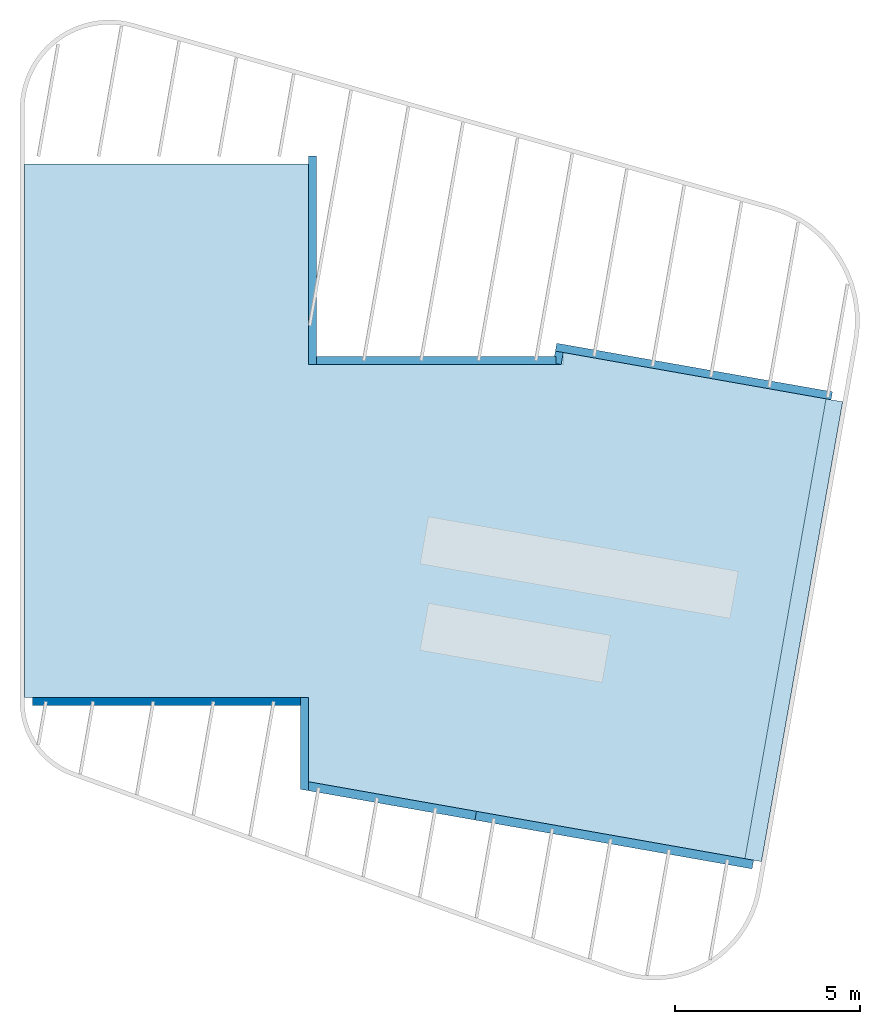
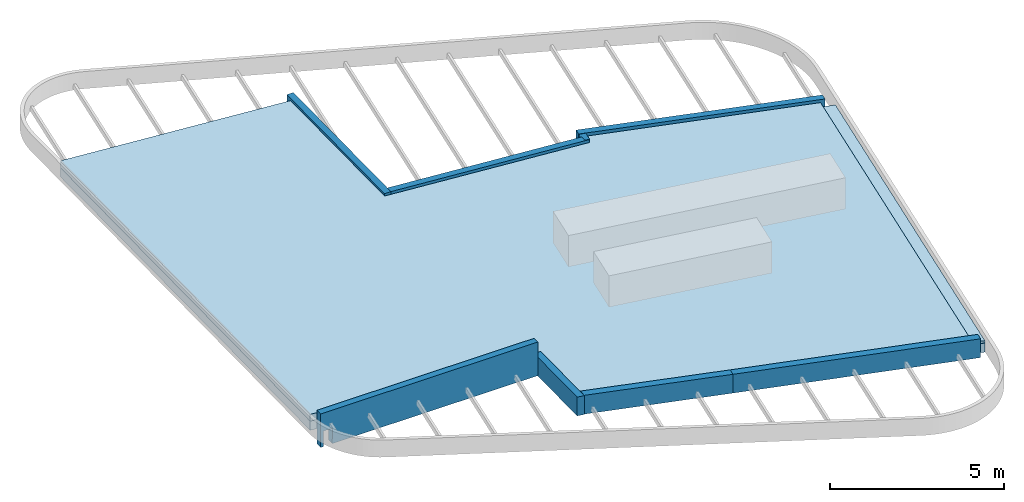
# One storey, part 2 of 3: 8 walls, 3 slabs, 1 opening, 2 elements without a shape of their own.
"""IFC2X3 building model written with IfcOpenShell, lengths in millimetres."""

from ifc_helpers import new_model, entity, si_unit, converted_unit, derived_unit, direction, frame, frame_2d, origin, place, context, subcontext, project, spatial, polyline, rectangle, outline, extrude, clip, halfspace, bounded_halfspace, faceted_brep, material, material_list, layer, layer_set, layer_usage, type_object, element, aggregate, save


model = new_model("IFC2X3")

# Units and contexts
model_context = context("Model", 3, precision=0.01, world=origin(), true_north=direction((6.12303176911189e-17, 1.0)))
body_context = subcontext(model_context, "Body", "Model", "MODEL_VIEW")
ifc_project = project(units=[si_unit("LENGTHUNIT", "METRE", prefix="MILLI"), si_unit("AREAUNIT", "SQUARE_METRE"), si_unit("VOLUMEUNIT", "CUBIC_METRE"), converted_unit("PLANEANGLEUNIT", "DEGREE", entity("IfcRatioMeasure", 0.0174532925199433), si_unit("PLANEANGLEUNIT", "RADIAN"), dimensions=[0, 0, 0, 0, 0, 0, 0]), si_unit("MASSUNIT", "GRAM", prefix="KILO"), derived_unit("MASSDENSITYUNIT", [(si_unit("MASSUNIT", "GRAM", prefix="KILO"), 1), (si_unit("LENGTHUNIT", "METRE"), -3)]), si_unit("TIMEUNIT", "SECOND"), si_unit("FREQUENCYUNIT", "HERTZ"), si_unit("THERMODYNAMICTEMPERATUREUNIT", "DEGREE_CELSIUS"), derived_unit("THERMALTRANSMITTANCEUNIT", [(si_unit("MASSUNIT", "GRAM", prefix="KILO"), 1), (si_unit("THERMODYNAMICTEMPERATUREUNIT", "KELVIN"), -1), (si_unit("TIMEUNIT", "SECOND"), -3)]), derived_unit("VOLUMETRICFLOWRATEUNIT", [(si_unit("LENGTHUNIT", "METRE"), 3), (si_unit("TIMEUNIT", "SECOND"), -1)]), si_unit("ELECTRICCURRENTUNIT", "AMPERE"), si_unit("ELECTRICVOLTAGEUNIT", "VOLT"), si_unit("POWERUNIT", "WATT"), si_unit("FORCEUNIT", "NEWTON", prefix="KILO"), si_unit("ILLUMINANCEUNIT", "LUX"), si_unit("LUMINOUSFLUXUNIT", "LUMEN"), si_unit("LUMINOUSINTENSITYUNIT", "CANDELA"), derived_unit("USERDEFINED", [(si_unit("MASSUNIT", "GRAM", prefix="KILO"), -1), (si_unit("LENGTHUNIT", "METRE"), -2), (si_unit("TIMEUNIT", "SECOND"), 3), (si_unit("LUMINOUSFLUXUNIT", "LUMEN"), 1)]), derived_unit("LINEARVELOCITYUNIT", [(si_unit("LENGTHUNIT", "METRE"), 1), (si_unit("TIMEUNIT", "SECOND"), -1)]), si_unit("PRESSUREUNIT", "PASCAL"), derived_unit("USERDEFINED", [(si_unit("LENGTHUNIT", "METRE"), -2), (si_unit("MASSUNIT", "GRAM", prefix="KILO"), 1), (si_unit("TIMEUNIT", "SECOND"), -2)])], contexts=[model_context])

# Site, building, storey
site_placement = place(None, origin())
site = spatial("IfcSite", under=ifc_project, at=site_placement, Name="<Kadaster Gemeente>;<Kadaster nummer>;<Kadaster sectie>", CompositionType="ELEMENT")
building_placement = place(site_placement, origin())
building = spatial("IfcBuilding", under=site, at=building_placement, Name="JRCZ Middelburg", CompositionType="ELEMENT")
storey_placement = place(building_placement, frame((0.0, 0.0, 6000.0)))
storey = spatial("IfcBuildingStorey", under=building, at=storey_placement, Name="03 dak", CompositionType="ELEMENT", Elevation=6000.0)

# Slab
ifc_material_1 = material(Name="RBM_i4_multiplex_beplating")
ifc_layer_1 = layer(ifc_material_1, 320.0)
ifc_layer_set_1 = layer_set([ifc_layer_1], Name="Floor:RBM_23_FL_houten kanaalplaat-320mm")
ifc_layer_usage_1 = layer_usage(ifc_layer_set_1, "AXIS3", "POSITIVE", 0.0)
slab_type = type_object("IfcSlabType", Name="Floor:RBM_23_FL_houten kanaalplaat-320mm", PredefinedType="FLOOR", material=ifc_layer_set_1)
slab_1_placement = place(storey_placement, origin())
element("IfcSlab", 1, at=slab_1_placement, inside=storey, type_object=slab_type, material=ifc_layer_usage_1, Name="Floor:RBM_23_FL_houten kanaalplaat-320mm", ObjectType="Floor:RBM_23_FL_houten kanaalplaat-320mm", PredefinedType="FLOOR", context=body_context, shape_type="Clipping", body=[
    clip(clip(extrude(outline(polyline([(-5726.64469005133, -10194.6566352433), (8674.5764825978, -10194.6566352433), (8667.208710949, -2513.79446142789), (3250.749414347, -2513.79446142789), (3244.1251105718, 4392.00646727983), (3573.19435637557, 4360.7415540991), (2232.26417186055, 11944.2358624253), (-10174.7657477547, 9747.50723239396), (-8006.69534719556, -2513.79446142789), (-5734.01246170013, -2513.79446142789), (-5726.64469005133, -10194.6566352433)])), frame((19706.9666840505, 15735.9373593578, 816.41828591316), z_axis=(-0.0736537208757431, 0.012987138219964, -0.997199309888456), x_axis=(0.0, 0.999915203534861, 0.0130225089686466)), (-0.0130225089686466, 0.0736474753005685, 0.997199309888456), 321.800000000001), halfspace(frame((30232.3182712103, 12740.6321031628, -320.898737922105), z_axis=(-0.0736537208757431, 0.0129871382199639, -0.997199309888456), x_axis=(-0.982049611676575, 0.173161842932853, 0.0747899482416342)), False)), halfspace(frame((30232.3182712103, 12740.6321031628, 0.0), z_axis=(0.0736537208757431, -0.0129871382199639, 0.997199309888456), x_axis=(0.982049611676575, -0.173161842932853, -0.0747899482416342)), False)),
])

# Roof, slab
roof_1_placement = place(storey_placement, frame((9540.0, 5650.01628147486, 0.0)))
roof_1 = element("IfcRoof", 2, at=roof_1_placement, inside=storey, Name="Basic Roof:RBM_27_RO_dakisolatie met afwerking_240mm", ObjectType="Basic Roof:RBM_27_RO_dakisolatie met afwerking_240mm", ShapeType="NOTDEFINED")
ifc_material_2 = material(Name="RBM_n7_dakisolatie_240mm")
ifc_layer_2 = layer(ifc_material_2, 240.0)
ifc_layer_set_2 = layer_set([ifc_layer_2], Name="Basic Roof:RBM_27_RO_dakisolatie met afwerking_240mm")
slab_2_placement = place(roof_1_placement, origin())
slab_2 = element("IfcSlab", 3, at=slab_2_placement, material=ifc_layer_set_2, Name="Basic Roof:RBM_27_RO_dakisolatie met afwerking_240mm", ObjectType="Basic Roof:RBM_27_RO_dakisolatie met afwerking_240mm", PredefinedType="ROOF", context=body_context, shape_type="SweptSolid", body=[
    extrude(outline(polyline([(-2182.44211051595, -5678.3649175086), (-2182.44211051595, -7951.04780300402), (9631.69795042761, -10040.0500976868), (11825.623964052, 2367.47538674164), (4715.69669853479, 3624.66840257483), (4658.25895792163, 3299.8351009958), (-2182.44211051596, 3306.39695853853), (-2182.44211051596, 8722.8562551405), (-9863.30428433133, 8730.2240267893), (-9863.30428433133, -5670.99714585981), (-2182.44211051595, -5678.3649175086)])), frame((9836.5143271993, 10029.9604337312, 840.096879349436), z_axis=(0.0736537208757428, -0.0129871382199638, 0.997199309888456), x_axis=(0.997283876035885, 0.000959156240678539, -0.0736474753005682)), (-0.0736474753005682, 0.0130225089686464, 0.997199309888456), 240.674053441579),
])
aggregate(roof_1, [slab_2])

roof_2_placement = place(storey_placement, frame((28982.0513920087, 5571.38377816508, -30.7499999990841)))
roof_2 = element("IfcRoof", 4, at=roof_2_placement, inside=storey, Name="Basic Roof:Dak_isolatie goot", ObjectType="Basic Roof:Dak_isolatie goot", ShapeType="NOTDEFINED")
ifc_material_3 = material(Name="RBM_n7_dakisolatie_80")
ifc_layer_3 = layer(ifc_material_3, 80.0)
ifc_layer_set_3 = layer_set([ifc_layer_3], Name="Basic Roof:Dak_isolatie goot")
slab_3_placement = place(roof_2_placement, origin())
slab_3 = element("IfcSlab", 5, at=slab_3_placement, material=ifc_layer_set_3, Name="Basic Roof:Dak_isolatie goot", ObjectType="Basic Roof:Dak_isolatie goot", PredefinedType="ROOF", context=body_context, shape_type="SweptSolid", body=[
    extrude(outline(polyline([(873.381945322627, 6243.29679727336), (-1320.54359272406, -6164.22877307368), (-873.382056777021, -6243.29742676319), (1323.3460970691, 6163.7325753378), (873.381945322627, 6243.29679727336)])), frame((1316.95711810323, 6243.60541040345, 17.0874243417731), z_axis=(0.0736507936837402, -0.0130037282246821, 0.997199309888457), x_axis=(0.997284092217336, 0.000960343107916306, -0.0736445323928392)), (-0.0736445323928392, 0.0130391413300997, 0.997199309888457), 80.224684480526),
])
aggregate(roof_2, [slab_3])

# Wall
ifc_material_4 = material(Name="steenachtig_ntb_plaat_antraciet")
ifc_layer_4 = layer(ifc_material_4, 8.0)
ifc_material_5 = material(Name="hout_vuren_regel")
ifc_layer_5 = layer(ifc_material_5, 35.0)
ifc_layer_6 = layer(ifc_material_5, 35.0)
ifc_material_6 = material(Name="isolatie_steenwol_hsb_270")
ifc_layer_7 = layer(ifc_material_6, 138.0)
ifc_layer_set_4 = layer_set([ifc_layer_4, ifc_layer_5, ifc_layer_6, ifc_layer_7], Name="Basic Wall:RBM_21_WA_dakrand/pas strook_rockpanel")
ifc_layer_usage_2 = layer_usage(ifc_layer_set_4, "AXIS2", "NEGATIVE", 108.0)
wall_type_1 = type_object("IfcWallType", Name="Basic Wall:RBM_21_WA_dakrand/pas strook_rockpanel", PredefinedType="STANDARD", material=ifc_layer_set_4)
wall_1_placement = place(storey_placement, frame((17308.0, 24616.0, 722.987076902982), z_axis=(0.0, 0.0, 1.0), x_axis=(0.0, -1.0, 0.0)))
element("IfcWallStandardCase", 6, at=wall_1_placement, inside=storey, type_object=wall_type_1, material=ifc_layer_usage_2, Name="Basic Wall:RBM_21_WA_dakrand/pas strook_rockpanel", ObjectType="Basic Wall:RBM_21_WA_dakrand/pas strook_rockpanel", context=body_context, shape_type="Clipping", body=[
    clip(clip(extrude(rectangle(XDim=5632.00000000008, YDim=215.999999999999, at=frame_2d((2816.00000000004, 2.62900812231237e-13), x_axis=(-1.0, 0.0))), origin(), (0.0, 0.0, 1.0), 713.878868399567), halfspace(frame((5632.0, -108.0, 0.0), z_axis=(-0.0130225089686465, 0.0, -0.999915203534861), x_axis=(0.0, 1.0, 0.0)), False)), halfspace(frame((0.0, -108.0, 713.878868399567), z_axis=(0.0130225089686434, 0.0, 0.999915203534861), x_axis=(0.0, 1.0, 0.0)), False)),
])

# Wall, opening
ifc_layer_usage_3 = layer_usage(ifc_layer_set_4, "AXIS2", "NEGATIVE", 108.0)
wall_2_placement = place(storey_placement, frame((17416.0, 19092.0, 235.389408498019)))
wall_2 = element("IfcWallStandardCase", 7, at=wall_2_placement, inside=storey, type_object=wall_type_1, material=ifc_layer_usage_3, Name="Basic Wall:RBM_21_WA_dakrand/pas strook_rockpanel", ObjectType="Basic Wall:RBM_21_WA_dakrand/pas strook_rockpanel", context=body_context, shape_type="Clipping", body=[
    clip(extrude(rectangle(XDim=6606.12087633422, YDim=215.999999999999, at=frame_2d((3303.06043816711, -2.8421709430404e-14), x_axis=(-1.0, 0.0))), origin(), (0.0, 0.0, 1.0), 1128.12754655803), halfspace(frame((0.0, -108.0, 1128.12754655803), z_axis=(0.0726944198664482, 0.0, 0.997354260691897), x_axis=(0.0, 1.0, 0.0)), False)),
])
opening_placement = place(wall_2_placement, origin())
element("IfcOpeningElement", 8, at=opening_placement, cuts=wall_2, Name="Basic Wall:RBM_21_WA_dakrand/pas strook_rockpanel", ObjectType="Opening", context=body_context, shape_type="SweptSolid", body=[
    extrude(outline(polyline([(-3235.51142631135, -3192.5), (3471.31133267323, -3192.5), (2999.71151994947, 3192.5), (-3235.51142631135, 3192.5), (-3235.51142631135, -3192.5)])), frame((3216.44187850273, -260.400000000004, -2999.87798218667), z_axis=(0.0, 1.0, 0.0), x_axis=(0.0, 0.0, 1.0)), (0.0, 0.0, 1.0), 520.800000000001),
])

# Walls
wall_3_placement = place(storey_placement, frame((23915.761639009, 19002.7540031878, 330.265808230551), z_axis=(0.0, 0.0, 1.0), x_axis=(0.173648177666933, 0.984807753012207, 0.0)))
element("IfcWall", 9, at=wall_3_placement, inside=storey, type_object=wall_type_1, Name="Basic Wall:RBM_21_WA_dakrand/pas strook_rockpanel", ObjectType="Basic Wall:RBM_21_WA_dakrand/pas strook_rockpanel", context=body_context, shape_type="Brep", body=[
    faceted_brep([(0.0, -108.0, 0.0), (329.872350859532, -108.0, 0.0), (329.872350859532, -108.0, 209.734191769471), (329.872350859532, -108.0, 450.40824521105), (329.872350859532, -108.0, 562.155003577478), (0.0, -108.0, 562.155003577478), (0.0, -108.0, 551.749093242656), (0.0, -108.0, 450.40824521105), (0.0, -108.0, 209.734191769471), (181.24552033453, 108.0, 562.155003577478), (329.872350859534, 108.0, 562.155003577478), (329.872350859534, 108.0, 0.0), (181.245520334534, 108.0, 0.0), (212.718474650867, -70.4919936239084, 551.749093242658), (187.927209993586, 70.1062549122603, 562.155003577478), (212.718474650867, -70.4919936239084, 0.0), (0.0, 36.9696173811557, 562.155003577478)], [[[0, 1, 2, 3, 4, 5, 6, 7, 8]], [[9, 10, 11, 12]], [[13, 14, 9, 12, 15]], [[6, 13, 15, 0, 8, 7]], [[13, 6, 16, 14]], [[1, 0, 15, 12, 11]], [[5, 4, 10, 9, 14, 16]], [[5, 16, 6]], [[1, 11, 10, 4, 3, 2]]]),
])
ifc_layer_usage_4 = layer_usage(ifc_layer_set_4, "AXIS2", "NEGATIVE", 108.0)
wall_4_placement = place(storey_placement, frame((23885.4381374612, 19452.728092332, -335.183251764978), z_axis=(0.0, 0.0, 1.0), x_axis=(0.984807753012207, -0.173648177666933, 0.0)))
element("IfcWallStandardCase", 10, at=wall_4_placement, inside=storey, type_object=wall_type_1, material=ifc_layer_usage_4, Name="Basic Wall:RBM_21_WA_dakrand/pas strook_rockpanel", ObjectType="Basic Wall:RBM_21_WA_dakrand/pas strook_rockpanel", context=body_context, shape_type="Clipping", body=[
    clip(clip(extrude(rectangle(XDim=7554.00000000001, YDim=215.999999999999, at=frame_2d((3777.00000000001, -1.57029944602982e-12), x_axis=(-1.0, 0.0))), origin(), (0.0, 0.0, 1.0), 1245.25191414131), halfspace(frame((7554.0, -108.0, 0.0), z_axis=(-0.0767317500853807, 0.0, -0.997051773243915), x_axis=(0.0, 1.0, 0.0)), False)), halfspace(frame((0.0, -108.0, 1245.25191414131), z_axis=(0.0759604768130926, 0.0, 0.997110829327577), x_axis=(0.0, 1.0, 0.0)), False)),
])
ifc_layer_usage_5 = layer_usage(ifc_layer_set_4, "AXIS2", "NEGATIVE", 108.0)
wall_5_placement = place(storey_placement, frame((17098.0, 7484.78033446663, 573.19459106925), z_axis=(0.0, 0.0, 1.0), x_axis=(0.0, 1.0, 0.0)))
element("IfcWallStandardCase", 11, at=wall_5_placement, inside=storey, type_object=wall_type_1, material=ifc_layer_usage_5, Name="Basic Wall:RBM_21_WA_dakrand/pas strook_rockpanel", ObjectType="Basic Wall:RBM_21_WA_dakrand/pas strook_rockpanel", context=body_context, shape_type="SweptSolid", body=[
    extrude(outline(polyline([(-1657.71493887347, -108.0), (819.041421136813, -108.0), (819.628585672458, -108.0), (857.718449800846, 108.0), (819.041421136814, 108.0), (-1657.71493887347, 108.0), (-1657.71493887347, -108.0)])), frame((857.645573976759, 0.0, 11.1807230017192), z_axis=(-0.0130354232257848, 0.0, 0.999915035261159), x_axis=(-0.999915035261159, 0.0, -0.0130354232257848)), (-0.0130354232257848, 0.0, 0.999915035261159), 661.587752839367),
])
ifc_layer_usage_6 = layer_usage(ifc_layer_set_4, "AXIS2", "NEGATIVE", 108.0)
wall_6_placement = place(storey_placement, frame((16990.0, 9892.0, 621.49365690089), z_axis=(0.0, 0.0, 1.0), x_axis=(-1.0, 0.0, 0.0)))
element("IfcWallStandardCase", 12, at=wall_6_placement, inside=storey, type_object=wall_type_1, material=ifc_layer_usage_6, Name="Basic Wall:RBM_21_WA_dakrand/pas strook_rockpanel", ObjectType="Basic Wall:RBM_21_WA_dakrand/pas strook_rockpanel", context=body_context, shape_type="Clipping", body=[
    clip(clip(extrude(rectangle(XDim=7227.99999999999, YDim=215.999999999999, at=frame_2d((3614.0, -3.69482222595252e-13), x_axis=(-1.0, 0.0))), origin(), (0.0, 0.0, 1.0), 1179.92635216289), bounded_halfspace(frame((6840.0, -108.0, 544.939429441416), z_axis=(0.0, 0.0130730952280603, 0.999914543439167), x_axis=(1.0, 0.0, 0.0)), True, frame((6840.0, -108.0, 544.939429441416), z_axis=(0.0, 0.0130730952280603, 0.999914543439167), x_axis=(1.0, 0.0, 0.0)), polyline([(0.0, 0.0), (288.0, 0.0), (288.0, 216.018460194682), (141.39856275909, 216.018460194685), (128.296147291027, 216.018460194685), (0.0, 216.018460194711), (0.0, 0.0)]))), halfspace(frame((0.0, -108.0, 646.062069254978), z_axis=(-0.0736599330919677, 0.0, 0.997283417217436), x_axis=(0.0, 1.0, 0.0)), False)),
])
ifc_material_7 = material(Name="hout_accoya_schubben")
ifc_material_8 = material(Name="ISR_Luchtspouw")
ifc_material_9 = material(Name="RBM_n7_isolatie_hsb_invulling")
ifc_material_list_1 = material_list([ifc_material_7, ifc_material_8, ifc_material_8, ifc_material_9])
ifc_layer_8 = layer(ifc_material_7, 30.0)
ifc_layer_9 = layer(ifc_material_8, 35.0)
ifc_layer_10 = layer(ifc_material_8, 35.0)
ifc_layer_11 = layer(ifc_material_9, 138.0)
ifc_layer_set_5 = layer_set([ifc_layer_8, ifc_layer_9, ifc_layer_10, ifc_layer_11], Name="Basic Wall:RBM_21_WA_dakrand_houten bekleding")
wall_type_2 = type_object("IfcWallType", Name="Basic Wall:RBM_21_WA_dakrand_houten bekleding", PredefinedType="STANDARD", material=ifc_layer_set_5)
wall_7_placement = place(storey_placement, frame((29195.771504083, 5491.49589258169, -338.748737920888), z_axis=(0.0, 0.0, 1.0), x_axis=(-0.984807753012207, 0.173648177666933, 0.0)))
element("IfcWall", 13, at=wall_7_placement, inside=storey, type_object=wall_type_2, material=ifc_material_list_1, Name="Basic Wall:RBM_21_WA_dakrand_houten bekleding", ObjectType="Basic Wall:RBM_21_WA_dakrand_houten bekleding", context=body_context, shape_type="Brep", body=[
    faceted_brep([(0.0, -119.0, 0.0), (7594.0, -119.0, 569.550000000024), (7594.0, -119.0, 1231.56595485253), (0.0, -119.0, 662.015954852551), (0.0, 119.0, 0.0), (0.0, 119.0, 662.015954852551), (7594.0, 119.0, 1231.56595485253), (7594.0, 119.0, 569.550000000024)], [[[0, 1, 2, 3]], [[4, 5, 6, 7]], [[1, 0, 4, 7]], [[2, 1, 7, 6]], [[3, 2, 6, 5]], [[0, 3, 5, 4]]]),
])
ifc_material_list_2 = material_list([ifc_material_4, ifc_material_8, ifc_material_8, ifc_material_8, ifc_material_6])
ifc_layer_12 = layer(ifc_material_4, 8.0)
ifc_layer_13 = layer(ifc_material_8, 22.0)
ifc_layer_14 = layer(ifc_material_8, 35.0)
ifc_layer_15 = layer(ifc_material_8, 35.0)
ifc_layer_16 = layer(ifc_material_6, 138.0)
ifc_layer_set_6 = layer_set([ifc_layer_12, ifc_layer_13, ifc_layer_14, ifc_layer_15, ifc_layer_16], Name="Basic Wall:RBM_21_WA_dakrand_rockpanel_uitvullen")
wall_type_3 = type_object("IfcWallType", Name="Basic Wall:RBM_21_WA_dakrand_rockpanel_uitvullen", PredefinedType="STANDARD", material=ifc_layer_set_6)
wall_8_placement = place(storey_placement, frame((21717.1414277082, 6810.18015378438, 230.801262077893), z_axis=(0.0, 0.0, 1.0), x_axis=(-0.984807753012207, 0.173648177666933, 0.0)))
element("IfcWall", 14, at=wall_8_placement, inside=storey, type_object=wall_type_3, material=ifc_material_list_2, Name="Basic Wall:RBM_21_WA_dakrand_rockpanel_uitvullen", ObjectType="Basic Wall:RBM_21_WA_dakrand_rockpanel_uitvullen", context=body_context, shape_type="Brep", body=[
    faceted_brep([(0.0, -119.0, 0.0), (4601.71596637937, -119.0, 355.900477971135), (4601.71596637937, -119.0, 1017.91643282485), (0.0, -119.0, 662.015954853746), (0.0, 119.0, 0.0), (0.0, 119.0, 662.015954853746), (4559.75014497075, 119.0, 1014.67076186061), (4559.75014497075, 119.0, 1003.99721572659), (4559.75014497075, 119.0, 352.65480700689)], [[[0, 1, 2, 3]], [[4, 5, 6, 7, 8]], [[1, 0, 4, 8]], [[3, 2, 6, 5]], [[0, 3, 5, 4]], [[2, 1, 8, 7, 6]]]),
])

save(model, "model.ifc")
